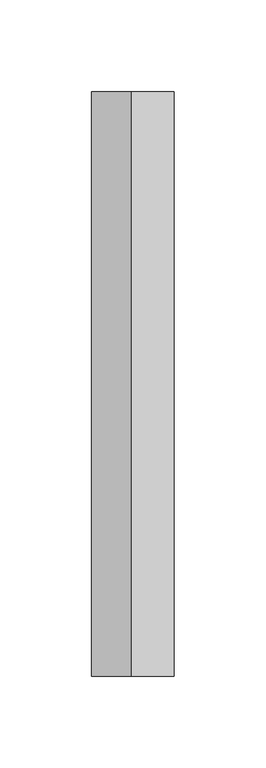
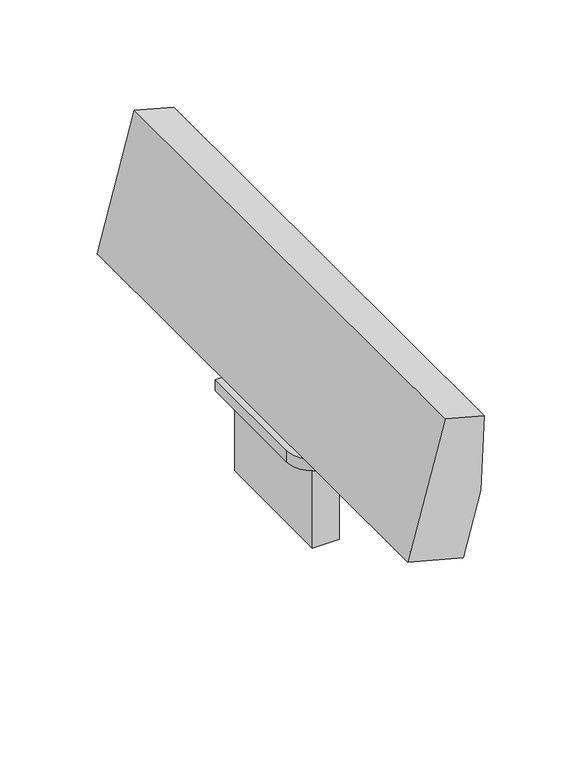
"""IFC4 building model written with IfcOpenShell, lengths in millimetres: light fixture geometry, Zumtobel SUP2 M WW : SUP2 M WW LED600-940 DIM 3CU WH."""

from ifc_helpers import new_model, si_unit, point, frame, frame_2d, origin, origin_with_axes, place, context, project, spatial, polyline, circle_curve, trimmed, segment, composite_curve, outline, extrude, source, transform, mapped, element, save
from ifc_brep_helpers import plane_surface, revolved_surface, advanced_brep


def light_fixture_ce8c6549(model_context):
    return source(origin(), model_context, "Body", "SolidModel", [
        extrude(outline(polyline([(407.0000048, -40.0), (391.0000048, -40.0), (391.0000048, 40.0), (407.0000048, 40.0), (407.0000048, -40.0)])), frame((0.0, 0.0, -50.0), z_axis=(0.0, 0.0, 1.0), x_axis=(1.0, 0.0, 0.0)), (0.0, 0.0, 1.0), 50.0),
        extrude(outline(composite_curve([segment(trimmed(circle_curve(frame_2d((399.5000048, 0.0)), 6.0663113), [point((399.5000048, -6.0663113))], [point((399.5000048, 6.0663113))], False, "CARTESIAN"), True, "CONTINUOUS"), segment(trimmed(circle_curve(frame_2d((399.5000048, 0.0)), 6.0663113), [point((399.5000048, 6.0663113))], [point((399.5000048, -6.0663113))], False, "CARTESIAN"), True, "CONTINUOUS")], self_intersect=False)), frame((0.0, 0.0, 7.0), z_axis=(0.0, 0.0, 1.0), x_axis=(1.0, 0.0, 0.0)), (0.0, 0.0, 1.0), 26.0),
        extrude(outline(composite_curve([segment(trimmed(circle_curve(frame_2d((399.5000048, -28.0)), 17.0), [point((399.5000048, -45.0))], [point((382.5000048, -28.0))], False, "CARTESIAN"), True, "CONTINUOUS"), segment(polyline([(382.5000048, -28.0), (382.5000048, 45.0), (399.5000048, 45.0)]), True, "CONTINUOUS"), segment(trimmed(circle_curve(frame_2d((399.5000048, 28.0)), 17.0), [point((399.5000048, 45.0))], [point((416.5000048, 28.0))], False, "CARTESIAN"), True, "CONTINUOUS"), segment(polyline([(416.5000048, 28.0), (416.5000048, -45.0), (399.5000048, -45.0)]), True, "CONTINUOUS")], self_intersect=False)), origin_with_axes(), (0.0, 0.0, 1.0), 7.0),
        advanced_brep(
        [(400.6789608, -159.5, 100.08288), (423.8611804, -159.5, 93.8712203), (423.8611804, 159.4999997, 93.8712203), (400.6789608, 159.4999997, 100.08288), (423.7507583, -151.0, 91.31262), (423.7507583, 151.0, 91.31262), (421.8735819, 151.0, 47.8163702), (421.8735819, 159.4999997, 47.8163702), (421.8735819, -159.5, 47.8163702), (421.8735819, -151.0, 47.8163702), (421.8189062, -151.0, 91.8302582), (421.8189062, 151.0, 91.8302582), (390.4463174, -151.0, 54.166728), (390.4463174, 151.0, 54.166728), (404.9352048, -151.0, 50.2844424), (404.9352048, 151.0, 50.2844424), (405.4528429, -151.0, 52.216294), (405.4528429, 151.0, 52.216294), (411.5208201, -159.5, 9.1793372), (411.5208201, 159.4999997, 9.1793372), (378.679342, -159.5, 17.9791847), (378.679342, 159.4999997, 17.9791847)],
        [
            (0, 1),
            (1, 2),
            (2, 3),
            (3, 0),
            (4, 5),
            (5, 6),
            (6, 7),
            (7, 2),
            (1, 8),
            (8, 9),
            (9, 4),
            (4, 10),
            (10, 11),
            (11, 5),
            (10, 12, circle_curve(frame((452.389488, -151.0, 34.4679054), z_axis=(0.0, -1.0, 0.0), x_axis=(0.25881904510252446, 0.0, 0.9659258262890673)), 65.0)),
            (12, 13),
            (13, 11, circle_curve(frame((452.389488, 151.0, 34.4679054), z_axis=(0.0, 1.0, 0.0), x_axis=(0.25881904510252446, 0.0, 0.9659258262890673)), 65.0)),
            (12, 14),
            (14, 15),
            (15, 13),
            (14, 16),
            (16, 17),
            (17, 15),
            (16, 9),
            (9, 6),
            (6, 17),
            (8, 18),
            (18, 19),
            (19, 7),
            (18, 20),
            (20, 21),
            (21, 19),
            (20, 0),
            (3, 21),
        ],
        [
            plane_surface(frame((400.6789608, 151.0, 100.08288), z_axis=(0.25881914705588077, 0.0, 0.965925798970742), x_axis=(0.0, -1.0, 0.0))),
            plane_surface(frame((423.8611804, 151.0, 93.8712203), z_axis=(0.9990700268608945, 0.0, -0.043117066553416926), x_axis=(0.0, -1.0, 0.0))),
            plane_surface(frame((423.7507583, 151.0, 91.31262), z_axis=(-0.25881904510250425, 0.0, -0.9659258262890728), x_axis=(0.0, -1.0, 0.0))),
            revolved_surface(polyline([(469.21272593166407, -151.0, 97.25308410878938), (469.21272593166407, 151.0, 97.25308410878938)]), (452.389488, -151.0, 34.4679054), (0.0, -1.0, 0.0)),
            plane_surface(frame((390.4463174, 151.0, 54.166728), z_axis=(0.2588190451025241, 0.0, 0.9659258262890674), x_axis=(0.0, -1.0, 0.0))),
            plane_surface(frame((404.9352048, 151.0, 50.2844424), z_axis=(-0.9659258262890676, 0.0, 0.25881904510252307), x_axis=(0.0, -1.0, 0.0))),
            plane_surface(frame((405.4528429, 151.0, 52.216294), z_axis=(0.25881904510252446, 0.0, 0.9659258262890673), x_axis=(0.0, -1.0, 0.0))),
            plane_surface(frame((421.8735819, 151.0, 47.8163702), z_axis=(0.9659258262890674, 0.0, -0.25881904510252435), x_axis=(0.0, -1.0, 0.0))),
            plane_surface(frame((411.5208201, 151.0, 9.1793372), z_axis=(-0.25881904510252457, 0.0, -0.9659258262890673), x_axis=(0.0, -1.0, 0.0))),
            plane_surface(frame((378.679342, 151.0, 17.9791847), z_axis=(-0.9659258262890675, 0.0, 0.25881904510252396), x_axis=(0.0, -1.0, 0.0))),
            plane_surface(frame((423.8611804, -151.0, 93.8712203), z_axis=(0.0, 1.0, 0.0), x_axis=(0.9659257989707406, 0.0, -0.25881914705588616))),
            plane_surface(frame((423.8611804, -159.5, 93.8712203), z_axis=(0.0, -1.0, 0.0), x_axis=(-0.9659257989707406, 0.0, 0.25881914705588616))),
            plane_surface(frame((423.8611804, 159.4999997, 93.8712203), z_axis=(0.0, 1.0, 0.0), x_axis=(0.9659257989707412, 0.0, -0.2588191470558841))),
            plane_surface(frame((423.8611804, 151.0, 93.8712203), z_axis=(0.0, -1.0, 0.0), x_axis=(-0.9659257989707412, 0.0, 0.2588191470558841))),
        ],
        [
            (0, [[1, 2, 3, 4]]),
            (1, [[5, 6, 7, 8, -2, 9, 10, 11]]),
            (2, [[-5, 12, 13, 14]]),
            (3, [[-13, 15, 16, 17]]),
            (4, [[-16, 18, 19, 20]]),
            (5, [[-19, 21, 22, 23]]),
            (6, [[-22, 24, 25, 26]]),
            (7, [[-25, -10, 27, 28, 29, -7]]),
            (8, [[-28, 30, 31, 32]]),
            (9, [[-31, 33, -4, 34]]),
            (10, [[-11, -24, -21, -18, -15, -12]]),
            (11, [[-33, -30, -27, -9, -1]]),
            (12, [[-3, -8, -29, -32, -34]]),
            (13, [[-6, -14, -17, -20, -23, -26]]),
        ],
    ),
    ])


if __name__ == "__main__":
    model = new_model("IFC4")
    model_context = context("Model", 3, world=origin())
    ifc_project = project(units=[si_unit("LENGTHUNIT", "METRE", prefix="MILLI")], contexts=[model_context])
    site = spatial("IfcSite", under=ifc_project)
    building = spatial("IfcBuilding", under=site)
    placement = place(None, origin())
    light_fixture_shape = light_fixture_ce8c6549(model_context)
    element("IfcLightFixture", 1, ObjectType="Zumtobel SUP2 M WW : SUP2 M WW LED600-940 DIM 3CU WH", at=placement, inside=building, context=model_context, shape_type="MappedRepresentation", body=[
        mapped(light_fixture_shape, transform((0.0, 0.0, 0.0), x_axis=(1.0, 0.0, 0.0), y_axis=(0.0, 1.0, 0.0), z_axis=(0.0, 0.0, 1.0))),
    ])
    save(model, "model.ifc")
